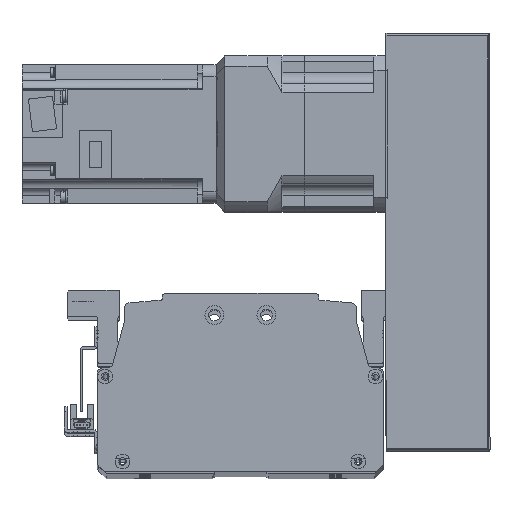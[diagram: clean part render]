
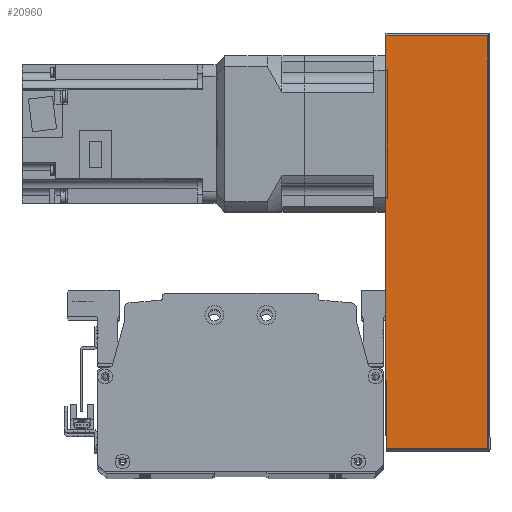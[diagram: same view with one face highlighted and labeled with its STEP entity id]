
A CAD part, top view. The second image highlights one B-rep face of the part: STEP entity #20960.
In plain terms, the highlighted planar face has unit normal (0, 0, 1) as drawn and (0, -1, 0) by its records, which use the part's own axes.
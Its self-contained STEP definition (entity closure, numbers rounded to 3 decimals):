
#570=PLANE('',#22860);
#1688=LINE('',#33325,#3348);
#1714=LINE('',#33421,#3374);
#1715=LINE('',#33429,#3375);
#1722=LINE('',#33454,#3382);
#3348=VECTOR('',#27119,10.);
#3374=VECTOR('',#27237,10.);
#3375=VECTOR('',#27248,10.);
#3382=VECTOR('',#27283,10.);
#5415=FACE_OUTER_BOUND('',#6891,.T.);
#6891=EDGE_LOOP('',(#16472,#16473,#16474,#16475));
#9789=VERTEX_POINT('',#33322);
#9790=VERTEX_POINT('',#33324);
#9814=VERTEX_POINT('',#33417);
#9815=VERTEX_POINT('',#33423);
#12164=EDGE_CURVE('',#9790,#9789,#1688,.T.);
#12214=EDGE_CURVE('',#9789,#9814,#1714,.T.);
#12218=EDGE_CURVE('',#9815,#9790,#1715,.T.);
#12231=EDGE_CURVE('',#9814,#9815,#1722,.T.);
#16472=ORIENTED_EDGE('',*,*,#12214,.T.);
#16473=ORIENTED_EDGE('',*,*,#12231,.T.);
#16474=ORIENTED_EDGE('',*,*,#12218,.T.);
#16475=ORIENTED_EDGE('',*,*,#12164,.T.);
#20960=ADVANCED_FACE('',(#5415),#570,.F.);
#22860=AXIS2_PLACEMENT_3D('',#33460,#27293,#27294);
#27119=DIRECTION('',(1.,0.,0.));
#27237=DIRECTION('',(0.,0.,1.));
#27248=DIRECTION('',(0.,0.,-1.));
#27283=DIRECTION('',(-1.,0.,0.));
#27293=DIRECTION('center_axis',(0.,1.,0.));
#27294=DIRECTION('ref_axis',(1.,0.,0.));
#33322=CARTESIAN_POINT('',(119.5,-51.,-30.));
#33324=CARTESIAN_POINT('',(-119.5,-51.,-30.));
#33325=CARTESIAN_POINT('',(120.5,-51.,-30.));
#33417=CARTESIAN_POINT('',(119.5,-51.,29.));
#33421=CARTESIAN_POINT('',(119.5,-51.,0.));
#33423=CARTESIAN_POINT('',(-119.5,-51.,29.));
#33429=CARTESIAN_POINT('',(-119.5,-51.,0.));
#33454=CARTESIAN_POINT('',(-60.25,-51.,29.));
#33460=CARTESIAN_POINT('Origin',(-120.5,-51.,0.));
